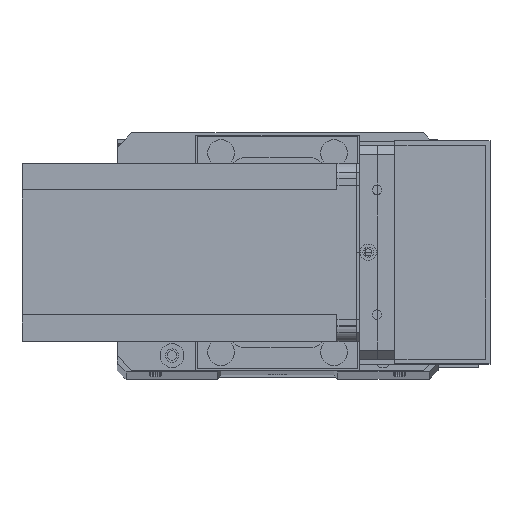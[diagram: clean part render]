
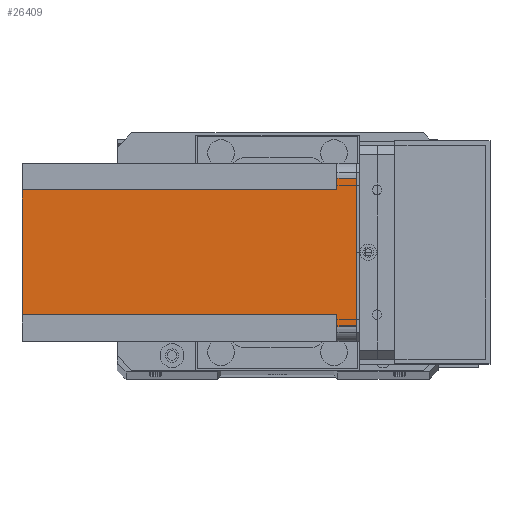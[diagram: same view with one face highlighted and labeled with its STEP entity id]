
A CAD part, top view. The second image highlights one B-rep face of the part: STEP entity #26409.
In plain terms, the highlighted planar face has unit normal (0, 0, 1) as drawn and (1, 0, 0) by its records, which use the part's own axes.
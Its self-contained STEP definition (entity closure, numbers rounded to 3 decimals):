
#250 = VECTOR ( 'NONE', #22195, 1000. ) ;
#432 = CARTESIAN_POINT ( 'NONE',  ( 60., 55., -6.5 ) ) ;
#459 = CARTESIAN_POINT ( 'NONE',  ( 60., 5., -112.5 ) ) ;
#1047 = VERTEX_POINT ( 'NONE', #16854 ) ;
#1142 = ORIENTED_EDGE ( 'NONE', *, *, #19503, .F. ) ;
#1889 = EDGE_CURVE ( 'NONE', #1047, #17236, #21549, .T. ) ;
#2185 = VECTOR ( 'NONE', #22811, 1000. ) ;
#2664 = VECTOR ( 'NONE', #17157, 1000. ) ;
#2914 = ORIENTED_EDGE ( 'NONE', *, *, #11106, .F. ) ;
#3058 = CARTESIAN_POINT ( 'NONE',  ( 60., 5., -6.5 ) ) ;
#3418 = VECTOR ( 'NONE', #29723, 1000. ) ;
#3872 = LINE ( 'NONE', #25389, #16784 ) ;
#4392 = ORIENTED_EDGE ( 'NONE', *, *, #22467, .T. ) ;
#5898 = CARTESIAN_POINT ( 'NONE',  ( 60., 51., -112.5 ) ) ;
#6024 = DIRECTION ( 'NONE',  ( 0., 0., -1. ) ) ;
#6445 = CARTESIAN_POINT ( 'NONE',  ( 60., 51., -6.5 ) ) ;
#7287 = VERTEX_POINT ( 'NONE', #29517 ) ;
#7402 = ORIENTED_EDGE ( 'NONE', *, *, #8550, .T. ) ;
#7879 = DIRECTION ( 'NONE',  ( 0., -1., 0. ) ) ;
#8014 = CARTESIAN_POINT ( 'NONE',  ( 60., 5., 0. ) ) ;
#8226 = AXIS2_PLACEMENT_3D ( 'NONE', #9253, #14101, #31032 ) ;
#8550 = EDGE_CURVE ( 'NONE', #13941, #23832, #12459, .T. ) ;
#9127 = EDGE_CURVE ( 'NONE', #13941, #24924, #25646, .T. ) ;
#9253 = CARTESIAN_POINT ( 'NONE',  ( 60., 0., -112.5 ) ) ;
#9886 = CARTESIAN_POINT ( 'NONE',  ( 60., 60., -6.5 ) ) ;
#9949 = LINE ( 'NONE', #9886, #2664 ) ;
#10919 = DIRECTION ( 'NONE',  ( 0., 0., 1. ) ) ;
#11106 = EDGE_CURVE ( 'NONE', #13897, #12216, #9949, .T. ) ;
#11329 = EDGE_CURVE ( 'NONE', #12216, #17236, #28105, .T. ) ;
#12216 = VERTEX_POINT ( 'NONE', #6445 ) ;
#12459 = LINE ( 'NONE', #459, #250 ) ;
#13408 = DIRECTION ( 'NONE',  ( 0., 1., 0. ) ) ;
#13897 = VERTEX_POINT ( 'NONE', #432 ) ;
#13941 = VERTEX_POINT ( 'NONE', #8014 ) ;
#14101 = DIRECTION ( 'NONE',  ( 1., 0., 0. ) ) ;
#14261 = ORIENTED_EDGE ( 'NONE', *, *, #11329, .F. ) ;
#15080 = CARTESIAN_POINT ( 'NONE',  ( 60., 55., 0. ) ) ;
#15314 = CARTESIAN_POINT ( 'NONE',  ( 60., 9., -112.5 ) ) ;
#15524 = CARTESIAN_POINT ( 'NONE',  ( 60., 0., -112.5 ) ) ;
#15897 = EDGE_LOOP ( 'NONE', ( #2914, #4392, #25712, #7402, #1142, #24650, #29108, #14261 ) ) ;
#15967 = VECTOR ( 'NONE', #6024, 1000. ) ;
#16592 = LINE ( 'NONE', #24802, #23003 ) ;
#16784 = VECTOR ( 'NONE', #10919, 1000. ) ;
#16854 = CARTESIAN_POINT ( 'NONE',  ( 60., 9., -112.5 ) ) ;
#17157 = DIRECTION ( 'NONE',  ( 0., -1., 0. ) ) ;
#17236 = VERTEX_POINT ( 'NONE', #5898 ) ;
#19213 = VECTOR ( 'NONE', #13408, 1000. ) ;
#19503 = EDGE_CURVE ( 'NONE', #7287, #23832, #16592, .T. ) ;
#20613 = CARTESIAN_POINT ( 'NONE',  ( 60., 0., 0. ) ) ;
#21549 = LINE ( 'NONE', #15524, #2185 ) ;
#21995 = LINE ( 'NONE', #15314, #3418 ) ;
#22195 = DIRECTION ( 'NONE',  ( 0., 0., -1. ) ) ;
#22467 = EDGE_CURVE ( 'NONE', #13897, #24924, #3872, .T. ) ;
#22811 = DIRECTION ( 'NONE',  ( 0., 1., 0. ) ) ;
#22948 = CARTESIAN_POINT ( 'NONE',  ( 60., 51., -112.5 ) ) ;
#23003 = VECTOR ( 'NONE', #7879, 1000. ) ;
#23832 = VERTEX_POINT ( 'NONE', #3058 ) ;
#24650 = ORIENTED_EDGE ( 'NONE', *, *, #27247, .F. ) ;
#24802 = CARTESIAN_POINT ( 'NONE',  ( 60., 0., -6.5 ) ) ;
#24924 = VERTEX_POINT ( 'NONE', #15080 ) ;
#25389 = CARTESIAN_POINT ( 'NONE',  ( 60., 55., -112.5 ) ) ;
#25646 = LINE ( 'NONE', #20613, #19213 ) ;
#25712 = ORIENTED_EDGE ( 'NONE', *, *, #9127, .F. ) ;
#26245 = FACE_OUTER_BOUND ( 'NONE', #15897, .T. ) ;
#26409 = ADVANCED_FACE ( 'NONE', ( #26245 ), #30927, .T. ) ;
#27247 = EDGE_CURVE ( 'NONE', #1047, #7287, #21995, .T. ) ;
#28105 = LINE ( 'NONE', #22948, #15967 ) ;
#29108 = ORIENTED_EDGE ( 'NONE', *, *, #1889, .T. ) ;
#29517 = CARTESIAN_POINT ( 'NONE',  ( 60., 9., -6.5 ) ) ;
#29723 = DIRECTION ( 'NONE',  ( 0., 0., 1. ) ) ;
#30927 = PLANE ( 'NONE',  #8226 ) ;
#31032 = DIRECTION ( 'NONE',  ( 0., 1., 0. ) ) ;
